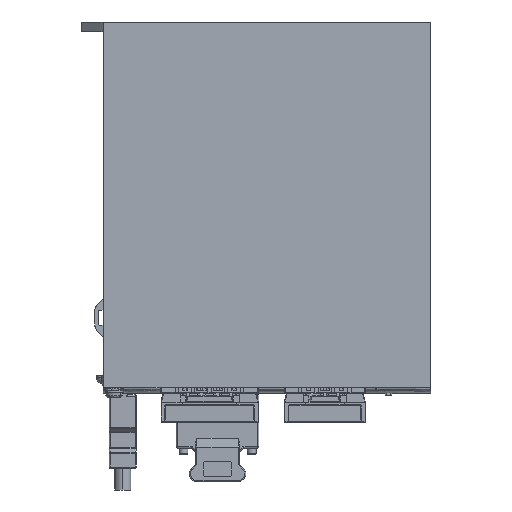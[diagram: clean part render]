
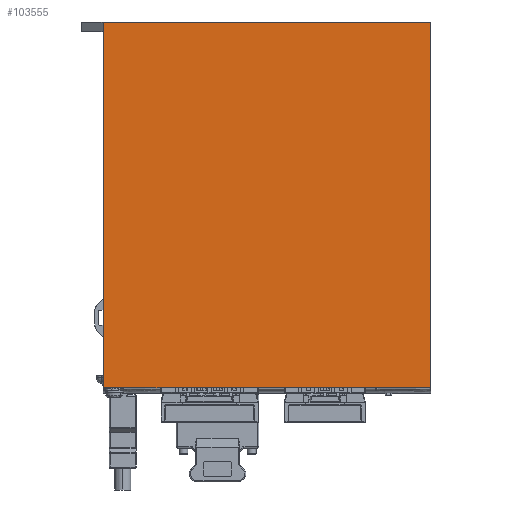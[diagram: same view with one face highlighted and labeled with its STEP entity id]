
A CAD part, front view. The second image highlights one B-rep face of the part: STEP entity #103555.
In plain terms, the highlighted planar face has unit normal (0, -1, 0).
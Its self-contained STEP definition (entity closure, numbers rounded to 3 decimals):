
#2791 = DIRECTION ( 'NONE',  ( 0., 0., -1. ) ) ;
#3408 = PLANE ( 'NONE',  #50768 ) ;
#4761 = EDGE_LOOP ( 'NONE', ( #29689, #103176, #99703, #77875, #41547, #50632 ) ) ;
#7421 = EDGE_CURVE ( 'NONE', #53953, #45533, #22647, .T. ) ;
#9526 = VERTEX_POINT ( 'NONE', #116396 ) ;
#21741 = VECTOR ( 'NONE', #42979, 1000. ) ;
#22647 = LINE ( 'NONE', #135075, #148444 ) ;
#23445 = CARTESIAN_POINT ( 'NONE',  ( 0., 0., -79.5 ) ) ;
#25859 = DIRECTION ( 'NONE',  ( 1., 0., 0. ) ) ;
#26178 = CARTESIAN_POINT ( 'NONE',  ( 0., 0., 88. ) ) ;
#29490 = VERTEX_POINT ( 'NONE', #156178 ) ;
#29689 = ORIENTED_EDGE ( 'NONE', *, *, #80523, .T. ) ;
#32991 = CARTESIAN_POINT ( 'NONE',  ( -150., 0., -79.5 ) ) ;
#41547 = ORIENTED_EDGE ( 'NONE', *, *, #132133, .T. ) ;
#42979 = DIRECTION ( 'NONE',  ( 1., 0., 0. ) ) ;
#45533 = VERTEX_POINT ( 'NONE', #26178 ) ;
#48497 = LINE ( 'NONE', #151681, #21741 ) ;
#50632 = ORIENTED_EDGE ( 'NONE', *, *, #93487, .F. ) ;
#50768 = AXIS2_PLACEMENT_3D ( 'NONE', #89165, #150418, #138662 ) ;
#50833 = DIRECTION ( 'NONE',  ( 0., 0., -1. ) ) ;
#53953 = VERTEX_POINT ( 'NONE', #95094 ) ;
#56754 = EDGE_CURVE ( 'NONE', #29490, #146570, #48497, .T. ) ;
#58745 = LINE ( 'NONE', #124231, #66434 ) ;
#66434 = VECTOR ( 'NONE', #2791, 1000. ) ;
#67941 = LINE ( 'NONE', #32991, #96491 ) ;
#69346 = FACE_OUTER_BOUND ( 'NONE', #4761, .T. ) ;
#77875 = ORIENTED_EDGE ( 'NONE', *, *, #7421, .F. ) ;
#80523 = EDGE_CURVE ( 'NONE', #129937, #29490, #58745, .T. ) ;
#83126 = LINE ( 'NONE', #98626, #106029 ) ;
#89165 = CARTESIAN_POINT ( 'NONE',  ( -150., 0., -79.5 ) ) ;
#93487 = EDGE_CURVE ( 'NONE', #129937, #9526, #83126, .T. ) ;
#95094 = CARTESIAN_POINT ( 'NONE',  ( -150., 0., 88. ) ) ;
#95905 = VECTOR ( 'NONE', #50833, 1000. ) ;
#96491 = VECTOR ( 'NONE', #118762, 1000. ) ;
#98626 = CARTESIAN_POINT ( 'NONE',  ( -150., 0., -79.3 ) ) ;
#99703 = ORIENTED_EDGE ( 'NONE', *, *, #103471, .F. ) ;
#103176 = ORIENTED_EDGE ( 'NONE', *, *, #56754, .T. ) ;
#103471 = EDGE_CURVE ( 'NONE', #45533, #146570, #143539, .T. ) ;
#103555 = ADVANCED_FACE ( 'NONE', ( #69346 ), #3408, .T. ) ;
#106029 = VECTOR ( 'NONE', #148134, 1000. ) ;
#113343 = CARTESIAN_POINT ( 'NONE',  ( -140., 0., -79.3 ) ) ;
#116396 = CARTESIAN_POINT ( 'NONE',  ( -150., 0., -79.3 ) ) ;
#118762 = DIRECTION ( 'NONE',  ( 0., 0., -1. ) ) ;
#124231 = CARTESIAN_POINT ( 'NONE',  ( -140., 0., -79.3 ) ) ;
#129937 = VERTEX_POINT ( 'NONE', #113343 ) ;
#132133 = EDGE_CURVE ( 'NONE', #53953, #9526, #67941, .T. ) ;
#132314 = CARTESIAN_POINT ( 'NONE',  ( 0., 0., -79.5 ) ) ;
#135075 = CARTESIAN_POINT ( 'NONE',  ( -150., 0., 88. ) ) ;
#138662 = DIRECTION ( 'NONE',  ( 0., 0., -1. ) ) ;
#143539 = LINE ( 'NONE', #132314, #95905 ) ;
#146570 = VERTEX_POINT ( 'NONE', #23445 ) ;
#148134 = DIRECTION ( 'NONE',  ( -1., 0., 0. ) ) ;
#148444 = VECTOR ( 'NONE', #25859, 1000. ) ;
#150418 = DIRECTION ( 'NONE',  ( 0., -1., 0. ) ) ;
#151681 = CARTESIAN_POINT ( 'NONE',  ( -150., 0., -79.5 ) ) ;
#156178 = CARTESIAN_POINT ( 'NONE',  ( -140., 0., -79.5 ) ) ;
